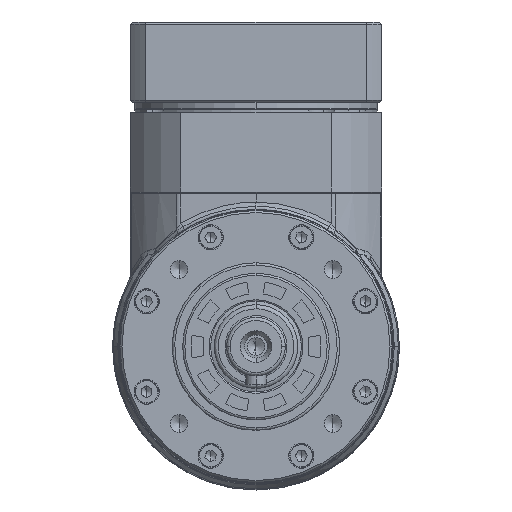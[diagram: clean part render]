
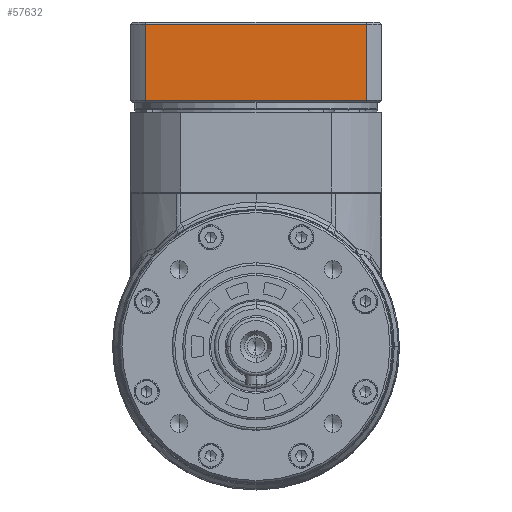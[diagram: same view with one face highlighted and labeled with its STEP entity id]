
A CAD part, left-side view. The second image highlights one B-rep face of the part: STEP entity #57632.
In plain terms, the highlighted planar face has unit normal (-1, 0, 0).
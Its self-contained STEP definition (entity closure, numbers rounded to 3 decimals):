
#57 = EDGE_CURVE ( 'NONE', #29719, #23378, #14969, .T. ) ;
#2851 = DIRECTION ( 'NONE',  ( 0., -1., 0. ) ) ;
#3497 = ORIENTED_EDGE ( 'NONE', *, *, #61350, .T. ) ;
#10064 = VERTEX_POINT ( 'NONE', #25021 ) ;
#11148 = DIRECTION ( 'NONE',  ( 0., 0., 1. ) ) ;
#14132 = CARTESIAN_POINT ( 'NONE',  ( -66.465, -26.92, 111.631 ) ) ;
#14969 = LINE ( 'NONE', #49535, #58985 ) ;
#15040 = DIRECTION ( 'NONE',  ( 0., 0., 1. ) ) ;
#16560 = EDGE_CURVE ( 'NONE', #23378, #10064, #29811, .T. ) ;
#16737 = AXIS2_PLACEMENT_3D ( 'NONE', #60783, #19146, #15040 ) ;
#19146 = DIRECTION ( 'NONE',  ( -1., 0., 0. ) ) ;
#23099 = ORIENTED_EDGE ( 'NONE', *, *, #57, .T. ) ;
#23378 = VERTEX_POINT ( 'NONE', #60379 ) ;
#23732 = VECTOR ( 'NONE', #11148, 1000. ) ;
#25021 = CARTESIAN_POINT ( 'NONE',  ( -66.465, -53.377, 111.631 ) ) ;
#29632 = CARTESIAN_POINT ( 'NONE',  ( -66.465, -0.462, 129.831 ) ) ;
#29719 = VERTEX_POINT ( 'NONE', #29632 ) ;
#29811 = LINE ( 'NONE', #14132, #40542 ) ;
#37067 = CARTESIAN_POINT ( 'NONE',  ( -66.465, -53.377, 54.331 ) ) ;
#38418 = LINE ( 'NONE', #37067, #23732 ) ;
#39538 = DIRECTION ( 'NONE',  ( 0., 1., 0. ) ) ;
#40542 = VECTOR ( 'NONE', #2851, 1000. ) ;
#40948 = PLANE ( 'NONE',  #16737 ) ;
#41517 = CARTESIAN_POINT ( 'NONE',  ( -66.465, -53.377, 129.831 ) ) ;
#42122 = VECTOR ( 'NONE', #39538, 1000. ) ;
#42691 = VERTEX_POINT ( 'NONE', #41517 ) ;
#43145 = ORIENTED_EDGE ( 'NONE', *, *, #49543, .T. ) ;
#47717 = ORIENTED_EDGE ( 'NONE', *, *, #16560, .T. ) ;
#49535 = CARTESIAN_POINT ( 'NONE',  ( -66.465, -0.462, 54.331 ) ) ;
#49543 = EDGE_CURVE ( 'NONE', #42691, #29719, #51354, .T. ) ;
#51354 = LINE ( 'NONE', #55546, #42122 ) ;
#51369 = EDGE_LOOP ( 'NONE', ( #47717, #3497, #43145, #23099 ) ) ;
#55546 = CARTESIAN_POINT ( 'NONE',  ( -66.465, -0.462, 129.831 ) ) ;
#57632 = ADVANCED_FACE ( 'NONE', ( #61117 ), #40948, .T. ) ;
#58985 = VECTOR ( 'NONE', #65253, 1000. ) ;
#60379 = CARTESIAN_POINT ( 'NONE',  ( -66.465, -0.462, 111.631 ) ) ;
#60783 = CARTESIAN_POINT ( 'NONE',  ( -66.465, -0.462, 54.331 ) ) ;
#61117 = FACE_OUTER_BOUND ( 'NONE', #51369, .T. ) ;
#61350 = EDGE_CURVE ( 'NONE', #10064, #42691, #38418, .T. ) ;
#65253 = DIRECTION ( 'NONE',  ( 0., 0., -1. ) ) ;
